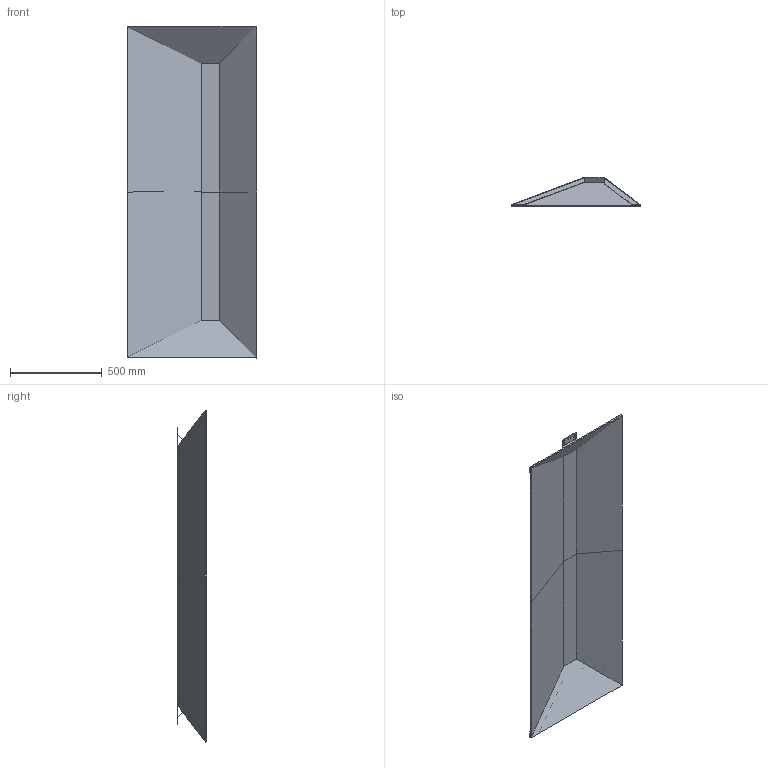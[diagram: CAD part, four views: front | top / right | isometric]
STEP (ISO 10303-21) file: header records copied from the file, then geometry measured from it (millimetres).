
FILE_DESCRIPTION(/* description */ (''),/* implementation_level */ '2;1');
FILE_NAME(/* name */ 'Reverso-mirror_180x70',/* time_stamp */ '2023-06-01T15:43:22+02:00',/* author */ (''),/* organization */ (''),/* preprocessor_version */ 'ST-DEVELOPER v16.5',/* originating_system */ '',/* authorisation */ '');
FILE_SCHEMA (('AUTOMOTIVE_DESIGN'));
Length unit declared in the file: millimetre
Products named in the file (1): Document
Bounding box: 705.71 x 158 x 1807.2 mm (x, y, z)
Volume: 9483208.3 mm3; surface area: 3748474.5 mm2
Topology: 10 solids, 10 shells, 152 faces, 326 edges, 190 vertices
Faces by surface type: plane 82, bspline 70
Entity records: 4194 total; most frequent: CARTESIAN_POINT 1906, ORIENTED_EDGE 652, EDGE_CURVE 326, B_SPLINE_CURVE_WITH_KNOTS 290, VERTEX_POINT 190, EDGE_LOOP 164, ADVANCED_FACE 152, FACE_OUTER_BOUND 152
